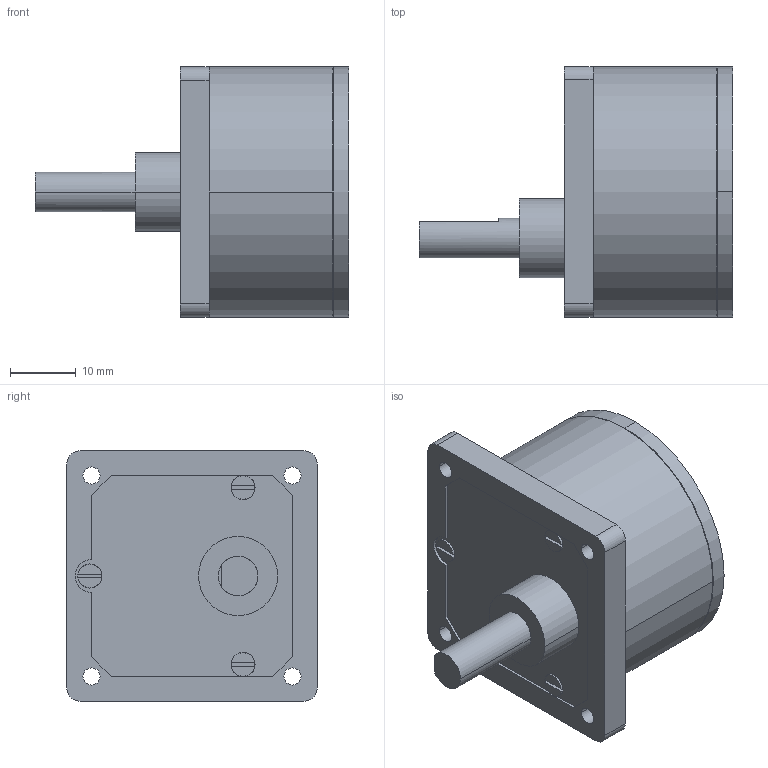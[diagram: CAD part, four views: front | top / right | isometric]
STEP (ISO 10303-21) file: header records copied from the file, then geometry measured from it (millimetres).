
FILE_DESCRIPTION((''),'2;1');
FILE_NAME('GS38','2016-10-06T',('mmagpetk'),(''),'CREO PARAMETRIC BY PTC INC, 2016050','CREO PARAMETRIC BY PTC INC, 2016050','');
FILE_SCHEMA(('CONFIG_CONTROL_DESIGN'));
Length unit declared in the file: millimetre
Products named in the file (1): GS38
Bounding box: 47.6 x 38 x 38 mm (x, y, z)
Volume: 31159.5 mm3; surface area: 6818.3 mm2
Topology: 1 solids, 1 shells, 75 faces, 194 edges, 126 vertices
Faces by surface type: plane 40, cylinder 27, cone 8
Entity records: 3219 total; most frequent: CARTESIAN_POINT 455, DIRECTION 412, ORIENTED_EDGE 388, PRESENTATION_STYLE_ASSIGNMENT 216, STYLED_ITEM 195, CURVE_STYLE 194, EDGE_CURVE 194, AXIS2_PLACEMENT_3D 155
